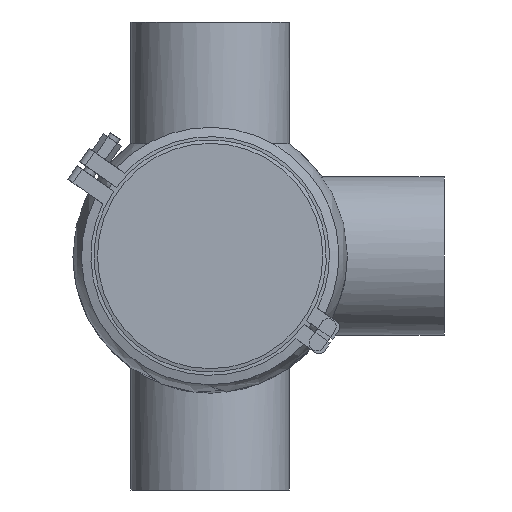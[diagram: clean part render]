
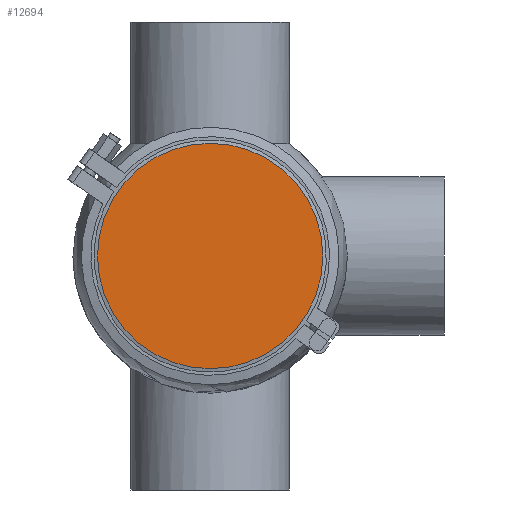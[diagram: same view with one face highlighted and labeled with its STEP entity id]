
A CAD part, front view. The second image highlights one B-rep face of the part: STEP entity #12694.
In plain terms, the highlighted planar face has unit normal (0, -1, 0).
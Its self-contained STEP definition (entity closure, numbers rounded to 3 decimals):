
#2807 = PLANE ( 'NONE',  #9907 ) ;
#3031 = DIRECTION ( 'NONE',  ( 0., -1., 0. ) ) ;
#4730 = AXIS2_PLACEMENT_3D ( 'NONE', #17414, #10641, #10742 ) ;
#5293 = EDGE_LOOP ( 'NONE', ( #6209 ) ) ;
#6085 = CARTESIAN_POINT ( 'NONE',  ( 0., 0., 72.25 ) ) ;
#6209 = ORIENTED_EDGE ( 'NONE', *, *, #19719, .F. ) ;
#6520 = CARTESIAN_POINT ( 'NONE',  ( -72.25, 0., 0. ) ) ;
#8252 = DIRECTION ( 'NONE',  ( 0., 0., -1. ) ) ;
#9567 = FACE_OUTER_BOUND ( 'NONE', #5293, .T. ) ;
#9907 = AXIS2_PLACEMENT_3D ( 'NONE', #6520, #3031, #8252 ) ;
#10641 = DIRECTION ( 'NONE',  ( 0., 1., 0. ) ) ;
#10742 = DIRECTION ( 'NONE',  ( 0., 0., 1. ) ) ;
#10989 = CIRCLE ( 'NONE', #4730, 72.25 ) ;
#12694 = ADVANCED_FACE ( 'NONE', ( #9567 ), #2807, .T. ) ;
#14384 = VERTEX_POINT ( 'NONE', #6085 ) ;
#17414 = CARTESIAN_POINT ( 'NONE',  ( 0., 0., 0. ) ) ;
#19719 = EDGE_CURVE ( 'NONE', #14384, #14384, #10989, .T. ) ;
